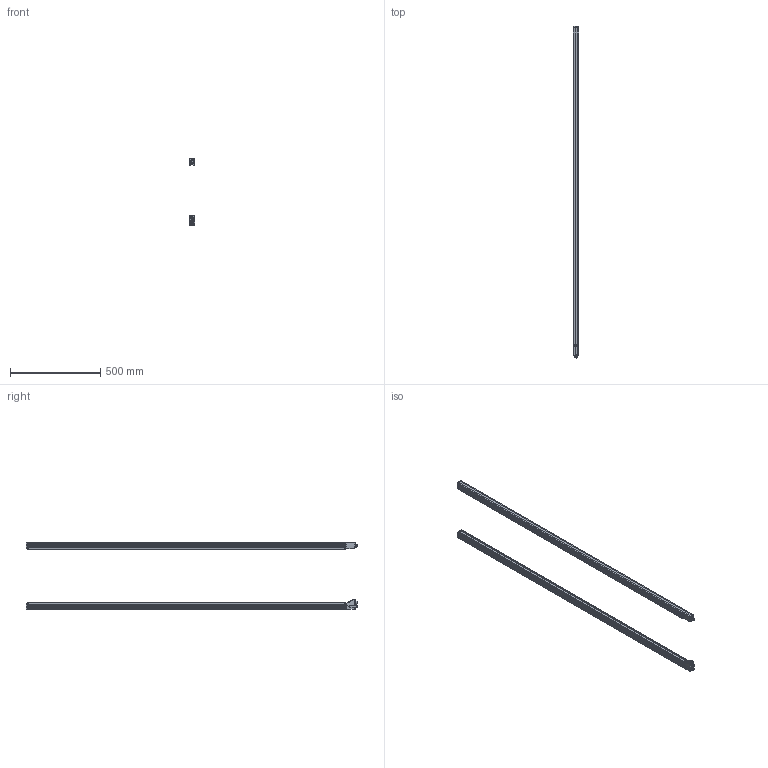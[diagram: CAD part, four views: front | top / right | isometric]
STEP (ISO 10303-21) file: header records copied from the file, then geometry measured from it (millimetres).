
FILE_DESCRIPTION(/* description */ (''),/* implementation_level */ '2;1');
FILE_NAME(/* name */ '3DCAD_CML700_1760_A_EX.stp',/* time_stamp */ '2016-10-19T13:42:46+02:00',/* author */ ('CC2'),/* organization */ ('Leuze electronic'),/* preprocessor_version */ 'ST-DEVELOPER v15',/* originating_system */ 'SIEMENS PLM Software NX 8.5',/* authorisation */ '');
FILE_SCHEMA (('CONFIG_CONTROL_DESIGN'));
Length unit declared in the file: millimetre
Products named in the file (1): 19-102482_00
Bounding box: 30.65 x 1835.3 x 370.4 mm (x, y, z)
Volume: 3588908.6 mm3; surface area: 679937.3 mm2
Topology: 21 solids, 21 shells, 1213 faces, 3211 edges, 2085 vertices
Faces by surface type: plane 567, cylinder 410, bspline 143, cone 43, torus 36, sphere 14
Full cylindrical faces by diameter (mm): 2 x2, 3.3 x1, 3.7 x4, 3.9 x1, 4 x4, 4.2 x1, 4.65 x4, 5.55 x4, 6 x2, 7 x3, 10.11 x1, 12 x2, 13.98 x1, 15.6 x1, 18 x2, 22.5 x1
Entity records: 41256 total; most frequent: CARTESIAN_POINT 11598, ORIENTED_EDGE 6260, DIRECTION 5942, EDGE_CURVE 3130, AXIS2_PLACEMENT_3D 2075, VERTEX_POINT 2074, LINE 1792, VECTOR 1792
